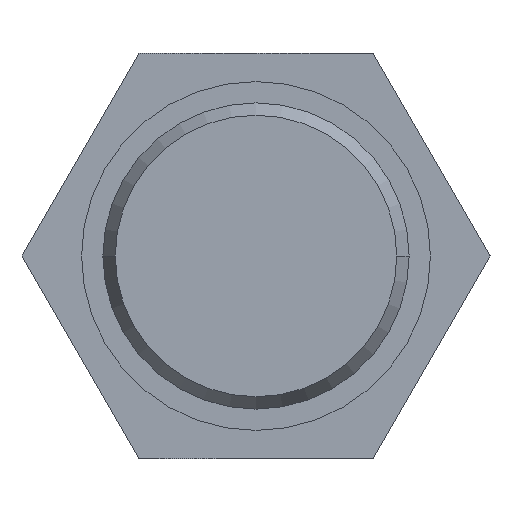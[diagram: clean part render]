
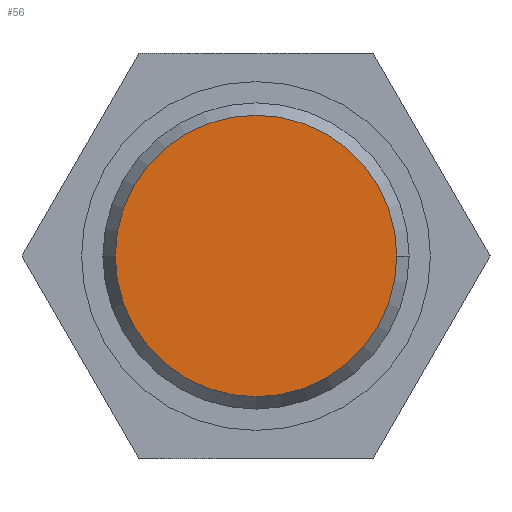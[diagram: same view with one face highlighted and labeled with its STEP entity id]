
A CAD part, left-side view. The second image highlights one B-rep face of the part: STEP entity #56.
In plain terms, the highlighted planar face has unit normal (-1, 0, 0).
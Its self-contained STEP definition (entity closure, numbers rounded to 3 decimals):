
#51 = EDGE_LOOP ( 'NONE', ( #479, #804 ) ) ;
#56 = ADVANCED_FACE ( 'NONE', ( #367 ), #638, .T. ) ;
#73 = DIRECTION ( 'NONE',  ( 0., -1., 0. ) ) ;
#93 = AXIS2_PLACEMENT_3D ( 'NONE', #508, #388, #73 ) ;
#142 = CARTESIAN_POINT ( 'NONE',  ( 0., 6.6, 0. ) ) ;
#175 = CIRCLE ( 'NONE', #475, 6.6 ) ;
#225 = VERTEX_POINT ( 'NONE', #770 ) ;
#345 = CIRCLE ( 'NONE', #518, 6.6 ) ;
#367 = FACE_OUTER_BOUND ( 'NONE', #51, .T. ) ;
#385 = DIRECTION ( 'NONE',  ( 0., 1., 0. ) ) ;
#388 = DIRECTION ( 'NONE',  ( -1., 0., 0. ) ) ;
#455 = DIRECTION ( 'NONE',  ( 1., 0., 0. ) ) ;
#458 = CARTESIAN_POINT ( 'NONE',  ( 0., 0., 0. ) ) ;
#475 = AXIS2_PLACEMENT_3D ( 'NONE', #570, #575, #519 ) ;
#479 = ORIENTED_EDGE ( 'NONE', *, *, #684, .F. ) ;
#508 = CARTESIAN_POINT ( 'NONE',  ( 0., 0., 0. ) ) ;
#518 = AXIS2_PLACEMENT_3D ( 'NONE', #458, #455, #385 ) ;
#519 = DIRECTION ( 'NONE',  ( 0., 1., 0. ) ) ;
#567 = VERTEX_POINT ( 'NONE', #142 ) ;
#570 = CARTESIAN_POINT ( 'NONE',  ( 0., 0., 0. ) ) ;
#575 = DIRECTION ( 'NONE',  ( 1., 0., 0. ) ) ;
#638 = PLANE ( 'NONE',  #93 ) ;
#679 = EDGE_CURVE ( 'NONE', #225, #567, #175, .T. ) ;
#684 = EDGE_CURVE ( 'NONE', #567, #225, #345, .T. ) ;
#770 = CARTESIAN_POINT ( 'NONE',  ( 0., -6.6, 0. ) ) ;
#804 = ORIENTED_EDGE ( 'NONE', *, *, #679, .F. ) ;
